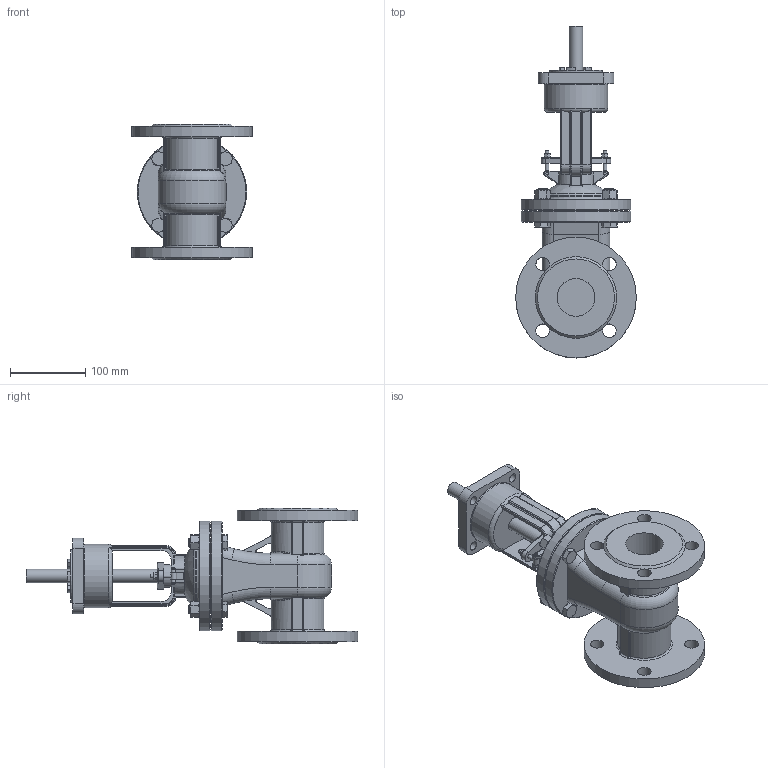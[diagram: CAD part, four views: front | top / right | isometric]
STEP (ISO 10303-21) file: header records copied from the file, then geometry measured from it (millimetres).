
FILE_DESCRIPTION(('STEP AP242'), '1');
FILE_NAME('GVWR2121M-2W-F-ÎÑÒ Çàäâèæêà êëèíîâàÿ ñ âûäâèæíûì øòîêîì Äó50 Ðó16', '', ('UNSPECIFIED'), ('UNSPECIFIED'), 'C3D Converter', 'C3D Toolkit', '');
FILE_SCHEMA(('AP242_MANAGED_MODEL_BASED_3D_ENGINEERING_MIM_LF { 1 0 10303 442 1 1 4 }'));
Length unit declared in the file: millimetre
Products named in the file (1): GVWR2121M-2W-F-ОСТ
Bounding box: 160 x 440 x 180 mm (x, y, z)
Volume: 2531162.7 mm3; surface area: 308957.4 mm2
Topology: 1 solids, 1 shells, 688 faces, 1707 edges, 1030 vertices
Faces by surface type: plane 280, cylinder 169, cone 108, bspline 71, torus 59, sphere 1
Full cylindrical faces by diameter (mm): 3 x4, 5 x4, 8 x2, 12 x12, 18 x14, 20 x1, 30 x1, 32 x1, 50 x3, 52 x1, 70 x1, 84.405 x1, 90 x2, 145 x2, 160 x2
Entity records: 40895 total; most frequent: CARTESIAN_POINT 19940, ORIENTED_EDGE 3254, DIRECTION 3000, EDGE_CURVE 1627, AXIS2_PLACEMENT_3D 1217, VERTEX_POINT 1028, EDGE_LOOP 831, FACE_BOUND 747
